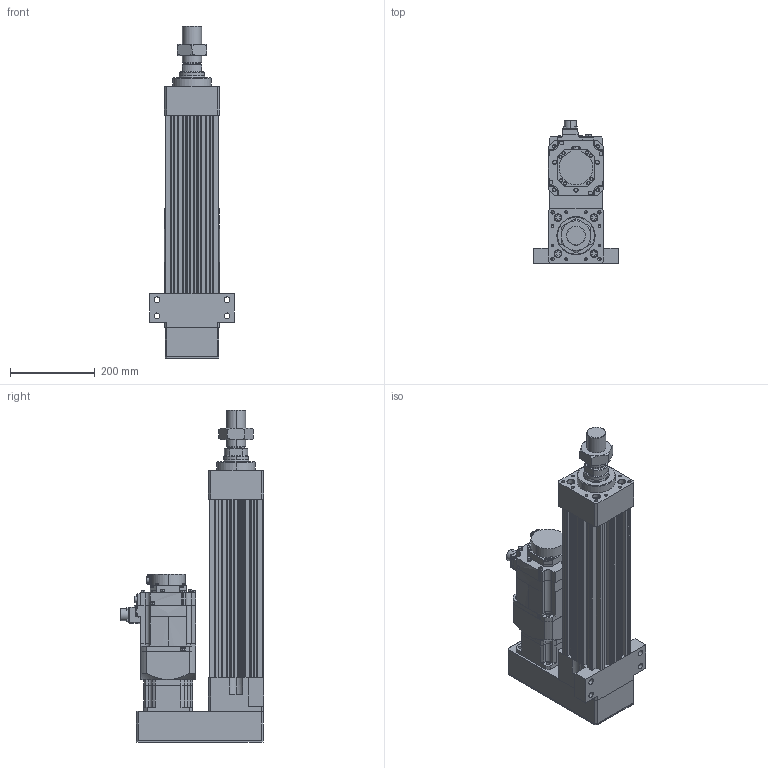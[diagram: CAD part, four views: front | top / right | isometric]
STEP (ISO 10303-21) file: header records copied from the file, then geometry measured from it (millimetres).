
FILE_DESCRIPTION (( 'STEP AP203' ), '1' );
FILE_NAME ('HES130NS(FS)(HS)-P200-W015G00-M-FFC.STEP', '2026-06-10T06:10:46', ( 'tms' ), ( '' ), 'SwSTEP 2.0', 'SolidWorks 2013', '' );
FILE_SCHEMA (( 'CONFIG_CONTROL_DESIGN' ));
Length unit declared in the file: millimetre
Products named in the file (8): AB1151; HG-SR152B; AB1152; HES130-M-ROD-200; HES130-FFC-200; M45X1.5P; HES130-P-G120; HES130NS(FS)(HS)-P200-W015G00-M-FFC
Assembly tree (7 placements, depth 2):
  HES130NS(FS)(HS)-P200-W015G00-M-FFC
    HES130-FFC-200
    HES130-M-ROD-200
    M45X1.5P
    HES130-P-G120
    AB1151
    AB1152
    HG-SR152B
Bounding box: 200 x 337.49 x 782 mm (x, y, z)
Volume: 9923654 mm3; surface area: 1195828.2 mm2
Topology: 5 solids, 12 shells, 1244 faces, 3150 edges, 2027 vertices
Faces by surface type: cylinder 584, plane 540, cone 106, bspline 10, torus 4
Entity records: 39199 total; most frequent: CARTESIAN_POINT 7512, DIRECTION 6807, ORIENTED_EDGE 6208, EDGE_CURVE 3114, AXIS2_PLACEMENT_3D 2543, VERTEX_POINT 2027, LINE 1721, VECTOR 1721
